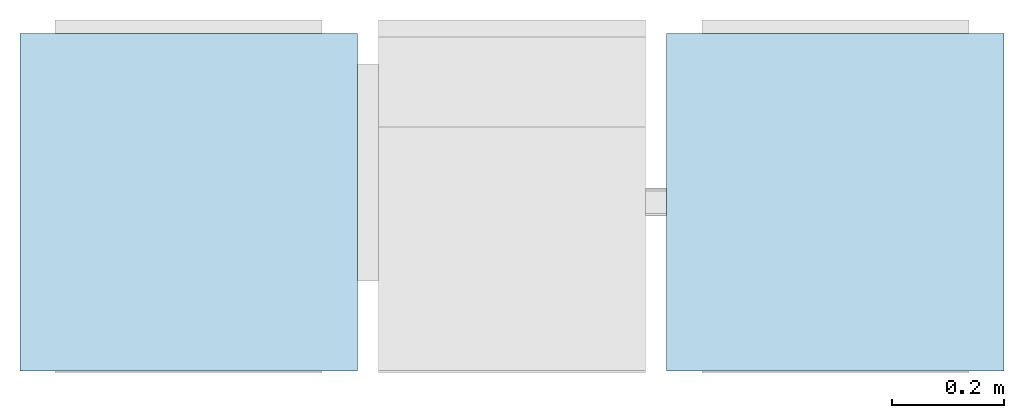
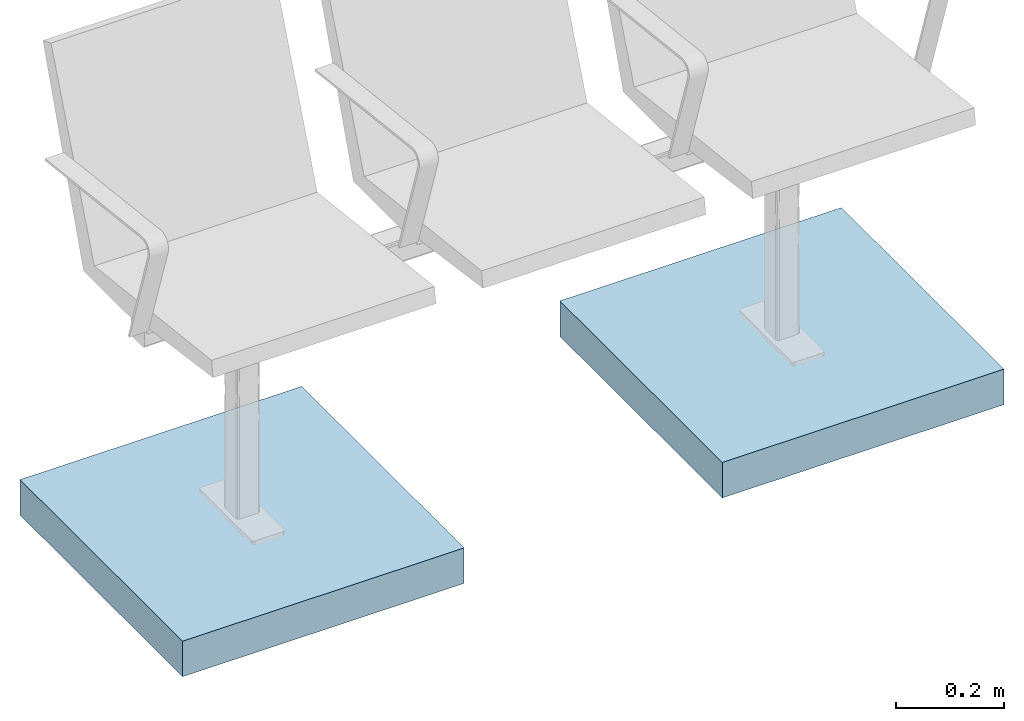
# One storey, incomplete: 2 slabs.
"""IFC4 building model written with IfcOpenShell, lengths in metres."""

from ifc_helpers import new_model, entity, si_unit, converted_unit, direction, frame, frame_2d, origin, place, context, subcontext, project, spatial, rectangle, extrude, material, type_object, element, save


model = new_model("IFC4")

# Units and contexts
model_context = context("Model", 3, precision=1e-05, world=origin(), true_north=direction((6.123031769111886e-17, 1.0)))
body_context = subcontext(model_context, "Body", "Model", "MODEL_VIEW")
ifc_project = project(units=[si_unit("LENGTHUNIT", "METRE"), converted_unit("PLANEANGLEUNIT", "DEGREE", entity("IfcPlaneAngleMeasure", 0.017453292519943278), si_unit("PLANEANGLEUNIT", "RADIAN"), dimensions=[0, 0, 0, 0, 0, 0, 0]), si_unit("AREAUNIT", "SQUARE_METRE")], contexts=[model_context])

# Site, building, storey
site_placement = place(None, origin())
site = spatial("IfcSite", under=ifc_project, at=site_placement, Name="Default", CompositionType="ELEMENT")
building_placement = place(site_placement, origin())
building = spatial("IfcBuilding", under=site, at=building_placement, CompositionType="ELEMENT")
storey_placement = place(building_placement, origin())
storey = spatial("IfcBuildingStorey", under=building, at=storey_placement, Name="DB_Bezugshoehe_max_Bahnsteigkante", CompositionType="ELEMENT", Elevation=0.0)

# Slabs
ifc_material = material(Name="DB_Fertigbeton", Category="DB_Beton")
slab_type = type_object("IfcSlabType", Name="DB_Sitzbank_Fundament:DB_Sitzbank_Fundament", PredefinedType="BASESLAB", material=ifc_material)
slab_1_placement = place(storey_placement, origin())
element("IfcSlab", 1, at=slab_1_placement, inside=storey, type_object=slab_type, Name="DB_Sitzbank_Fundament:DB_Sitzbank_Fundament", ObjectType="DB_Sitzbank_Fundament:DB_Sitzbank_Fundament", PredefinedType="BASESLAB", context=body_context, shape_type="SweptSolid", body=[
    extrude(rectangle(XDim=0.5999999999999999, YDim=0.5999999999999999, at=frame_2d((0.0, 8.326672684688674e-17), x_axis=(1.0, 0.0))), frame((-0.5750000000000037, -0.00999999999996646, -0.25000000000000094), z_axis=(0.0, 0.0, 1.0), x_axis=(0.0, 1.0, 0.0)), (0.0, 0.0, 1.0), 0.08000000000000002),
])
slab_2_placement = place(storey_placement, origin())
element("IfcSlab", 2, at=slab_2_placement, inside=storey, type_object=slab_type, Name="DB_Sitzbank_Fundament:DB_Sitzbank_Fundament", ObjectType="DB_Sitzbank_Fundament:DB_Sitzbank_Fundament", PredefinedType="BASESLAB", context=body_context, shape_type="SweptSolid", body=[
    extrude(rectangle(XDim=0.5999999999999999, YDim=0.5999999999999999, at=frame_2d((0.0, -8.326672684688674e-17), x_axis=(1.0, 0.0))), frame((0.5749999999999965, -0.009999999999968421, -0.2500000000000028), z_axis=(0.0, 0.0, 1.0), x_axis=(0.0, 1.0, 0.0)), (0.0, 0.0, 1.0), 0.08000000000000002),
])

save(model, "model.ifc")
